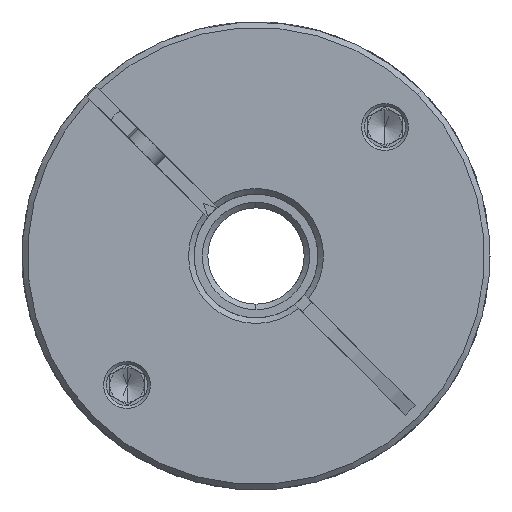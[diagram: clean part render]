
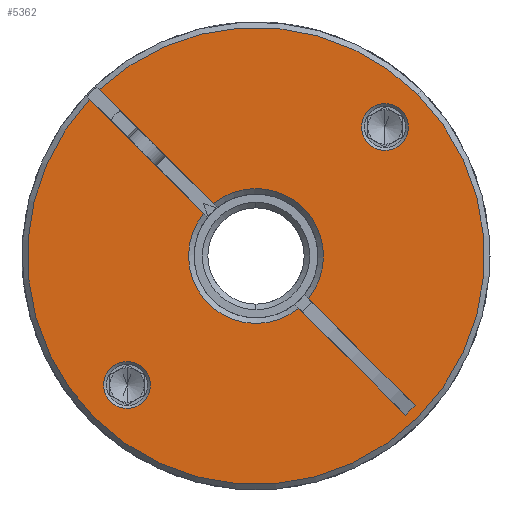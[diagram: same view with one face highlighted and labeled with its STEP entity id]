
A CAD part, front view. The second image highlights one B-rep face of the part: STEP entity #5362.
In plain terms, the highlighted planar face has unit normal (0, -1, 0).
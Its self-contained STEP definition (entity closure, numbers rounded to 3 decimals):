
#118 = DIRECTION ( 'NONE',  ( 0., -1., 0. ) ) ;
#143 = EDGE_CURVE ( 'NONE', #19163, #11366, #16369, .T. ) ;
#279 = ORIENTED_EDGE ( 'NONE', *, *, #14547, .T. ) ;
#366 = EDGE_CURVE ( 'NONE', #3629, #13953, #1198, .T. ) ;
#416 = CARTESIAN_POINT ( 'NONE',  ( 20.402, -67.045, 46.277 ) ) ;
#430 = CARTESIAN_POINT ( 'NONE',  ( -2.735, -67.045, 68. ) ) ;
#479 = CARTESIAN_POINT ( 'NONE',  ( -25.493, -67.045, 92.172 ) ) ;
#751 = VERTEX_POINT ( 'NONE', #8345 ) ;
#921 = ORIENTED_EDGE ( 'NONE', *, *, #10608, .T. ) ;
#1019 = DIRECTION ( 'NONE',  ( 0.707, 0., 0.707 ) ) ;
#1198 = LINE ( 'NONE', #16089, #14042 ) ;
#1271 = DIRECTION ( 'NONE',  ( 0., -1., 0. ) ) ;
#1374 = ORIENTED_EDGE ( 'NONE', *, *, #8871, .T. ) ;
#1404 = AXIS2_PLACEMENT_3D ( 'NONE', #13114, #16655, #18345 ) ;
#1449 = DIRECTION ( 'NONE',  ( 0., -1., 0. ) ) ;
#1590 = EDGE_CURVE ( 'NONE', #20549, #13953, #20001, .T. ) ;
#1605 = CARTESIAN_POINT ( 'NONE',  ( 13.599, -67.045, 84.334 ) ) ;
#1606 = LINE ( 'NONE', #17810, #14425 ) ;
#2107 = AXIS2_PLACEMENT_3D ( 'NONE', #19968, #3228, #10065 ) ;
#2229 = PLANE ( 'NONE',  #11323 ) ;
#2576 = ORIENTED_EDGE ( 'NONE', *, *, #17912, .T. ) ;
#2663 = VERTEX_POINT ( 'NONE', #6131 ) ;
#3228 = DIRECTION ( 'NONE',  ( 0., 1., 0. ) ) ;
#3465 = CARTESIAN_POINT ( 'NONE',  ( 4.195, -67.045, 74.93 ) ) ;
#3629 = VERTEX_POINT ( 'NONE', #416 ) ;
#3715 = DIRECTION ( 'NONE',  ( 0.707, 0., 0.707 ) ) ;
#3890 = AXIS2_PLACEMENT_3D ( 'NONE', #8093, #1271, #16457 ) ;
#4237 = ORIENTED_EDGE ( 'NONE', *, *, #366, .T. ) ;
#4457 = DIRECTION ( 'NONE',  ( 0., 1., 0. ) ) ;
#4626 = CARTESIAN_POINT ( 'NONE',  ( -2.735, -67.045, 68. ) ) ;
#5280 = LINE ( 'NONE', #12629, #12337 ) ;
#5362 = ADVANCED_FACE ( 'NONE', ( #10518, #6284, #10241 ), #2229, .T. ) ;
#5541 = EDGE_CURVE ( 'NONE', #6795, #19163, #12563, .T. ) ;
#5613 = CARTESIAN_POINT ( 'NONE',  ( -2.735, -67.045, 68. ) ) ;
#5697 = VERTEX_POINT ( 'NONE', #3465 ) ;
#6041 = DIRECTION ( 'NONE',  ( 0.707, 0., 0.707 ) ) ;
#6131 = CARTESIAN_POINT ( 'NONE',  ( -10.336, -67.045, 74.186 ) ) ;
#6228 = ORIENTED_EDGE ( 'NONE', *, *, #5541, .T. ) ;
#6284 = FACE_BOUND ( 'NONE', #12846, .T. ) ;
#6695 = ORIENTED_EDGE ( 'NONE', *, *, #7247, .T. ) ;
#6794 = CARTESIAN_POINT ( 'NONE',  ( 20.741, -67.045, 91.476 ) ) ;
#6795 = VERTEX_POINT ( 'NONE', #15719 ) ;
#6818 = EDGE_LOOP ( 'NONE', ( #9953, #19582, #6228, #19408, #2576, #1374, #15887, #19708, #4237, #12520, #6695 ) ) ;
#7030 = VERTEX_POINT ( 'NONE', #7132 ) ;
#7132 = CARTESIAN_POINT ( 'NONE',  ( -26.908, -67.045, 90.758 ) ) ;
#7247 = EDGE_CURVE ( 'NONE', #20549, #2663, #17941, .T. ) ;
#7381 = DIRECTION ( 'NONE',  ( 0.707, 0., -0.707 ) ) ;
#7684 = AXIS2_PLACEMENT_3D ( 'NONE', #16775, #20077, #10175 ) ;
#7906 = CARTESIAN_POINT ( 'NONE',  ( 16.003, -67.045, 86.738 ) ) ;
#8093 = CARTESIAN_POINT ( 'NONE',  ( -2.735, -67.045, 68. ) ) ;
#8345 = CARTESIAN_POINT ( 'NONE',  ( -8.921, -67.045, 75.601 ) ) ;
#8702 = VERTEX_POINT ( 'NONE', #9887 ) ;
#8871 = EDGE_CURVE ( 'NONE', #751, #5697, #12190, .T. ) ;
#8874 = DIRECTION ( 'NONE',  ( 0.707, 0., -0.707 ) ) ;
#9092 = VERTEX_POINT ( 'NONE', #11868 ) ;
#9129 = EDGE_LOOP ( 'NONE', ( #921, #14672 ) ) ;
#9379 = EDGE_CURVE ( 'NONE', #5697, #8702, #16323, .T. ) ;
#9461 = CIRCLE ( 'NONE', #7684, 3.4 ) ;
#9590 = CARTESIAN_POINT ( 'NONE',  ( -21.473, -67.045, 49.262 ) ) ;
#9617 = AXIS2_PLACEMENT_3D ( 'NONE', #7906, #4457, #17820 ) ;
#9887 = CARTESIAN_POINT ( 'NONE',  ( 4.865, -67.045, 61.814 ) ) ;
#9953 = ORIENTED_EDGE ( 'NONE', *, *, #14320, .F. ) ;
#10028 = CARTESIAN_POINT ( 'NONE',  ( -2.735, -67.045, 68. ) ) ;
#10065 = DIRECTION ( 'NONE',  ( 0.707, 0., 0.707 ) ) ;
#10175 = DIRECTION ( 'NONE',  ( 0.707, 0., 0.707 ) ) ;
#10241 = FACE_OUTER_BOUND ( 'NONE', #6818, .T. ) ;
#10472 = CARTESIAN_POINT ( 'NONE',  ( -23.878, -67.045, 46.858 ) ) ;
#10518 = FACE_BOUND ( 'NONE', #9129, .T. ) ;
#10548 = CARTESIAN_POINT ( 'NONE',  ( 18.988, -67.045, 44.862 ) ) ;
#10557 = CIRCLE ( 'NONE', #16445, 3.4 ) ;
#10601 = CARTESIAN_POINT ( 'NONE',  ( -3.442, -67.045, 67.293 ) ) ;
#10608 = EDGE_CURVE ( 'NONE', #9092, #13220, #12642, .T. ) ;
#10843 = CARTESIAN_POINT ( 'NONE',  ( -19.069, -67.045, 51.666 ) ) ;
#11323 = AXIS2_PLACEMENT_3D ( 'NONE', #5613, #17295, #6041 ) ;
#11354 = AXIS2_PLACEMENT_3D ( 'NONE', #20176, #1449, #14843 ) ;
#11366 = VERTEX_POINT ( 'NONE', #479 ) ;
#11868 = CARTESIAN_POINT ( 'NONE',  ( 18.407, -67.045, 89.142 ) ) ;
#11961 = VERTEX_POINT ( 'NONE', #10843 ) ;
#11990 = ORIENTED_EDGE ( 'NONE', *, *, #14351, .T. ) ;
#12190 = CIRCLE ( 'NONE', #17809, 9.8 ) ;
#12337 = VECTOR ( 'NONE', #7381, 1000. ) ;
#12520 = ORIENTED_EDGE ( 'NONE', *, *, #1590, .F. ) ;
#12563 = CIRCLE ( 'NONE', #3890, 33.2 ) ;
#12629 = CARTESIAN_POINT ( 'NONE',  ( -2.028, -67.045, 68.707 ) ) ;
#12642 = CIRCLE ( 'NONE', #9617, 3.4 ) ;
#12846 = EDGE_LOOP ( 'NONE', ( #11990, #279 ) ) ;
#13114 = CARTESIAN_POINT ( 'NONE',  ( 16.003, -67.045, 86.738 ) ) ;
#13220 = VERTEX_POINT ( 'NONE', #1605 ) ;
#13375 = DIRECTION ( 'NONE',  ( 0.707, 0., 0.707 ) ) ;
#13953 = VERTEX_POINT ( 'NONE', #10548 ) ;
#13976 = CARTESIAN_POINT ( 'NONE',  ( -2.028, -67.045, 68.707 ) ) ;
#14042 = VECTOR ( 'NONE', #16226, 1000. ) ;
#14320 = EDGE_CURVE ( 'NONE', #7030, #2663, #1606, .T. ) ;
#14351 = EDGE_CURVE ( 'NONE', #11961, #16509, #10557, .T. ) ;
#14425 = VECTOR ( 'NONE', #16190, 1000. ) ;
#14547 = EDGE_CURVE ( 'NONE', #16509, #11961, #9461, .T. ) ;
#14672 = ORIENTED_EDGE ( 'NONE', *, *, #18744, .T. ) ;
#14843 = DIRECTION ( 'NONE',  ( 0.707, 0., 0.707 ) ) ;
#15204 = DIRECTION ( 'NONE',  ( 0., 1., 0. ) ) ;
#15658 = CIRCLE ( 'NONE', #15837, 33.2 ) ;
#15719 = CARTESIAN_POINT ( 'NONE',  ( -26.211, -67.045, 44.524 ) ) ;
#15837 = AXIS2_PLACEMENT_3D ( 'NONE', #10028, #118, #13375 ) ;
#15887 = ORIENTED_EDGE ( 'NONE', *, *, #9379, .T. ) ;
#15914 = VECTOR ( 'NONE', #8874, 1000. ) ;
#16063 = VECTOR ( 'NONE', #18597, 1000. ) ;
#16089 = CARTESIAN_POINT ( 'NONE',  ( 18.988, -67.045, 44.862 ) ) ;
#16190 = DIRECTION ( 'NONE',  ( 0.707, 0., -0.707 ) ) ;
#16226 = DIRECTION ( 'NONE',  ( -0.707, 0., -0.707 ) ) ;
#16323 = CIRCLE ( 'NONE', #18108, 9.8 ) ;
#16369 = CIRCLE ( 'NONE', #11354, 33.2 ) ;
#16445 = AXIS2_PLACEMENT_3D ( 'NONE', #9590, #19353, #1019 ) ;
#16457 = DIRECTION ( 'NONE',  ( 0.707, 0., 0.707 ) ) ;
#16509 = VERTEX_POINT ( 'NONE', #10472 ) ;
#16655 = DIRECTION ( 'NONE',  ( 0., 1., 0. ) ) ;
#16775 = CARTESIAN_POINT ( 'NONE',  ( -21.473, -67.045, 49.262 ) ) ;
#17295 = DIRECTION ( 'NONE',  ( 0., -1., 0. ) ) ;
#17809 = AXIS2_PLACEMENT_3D ( 'NONE', #4626, #17990, #18134 ) ;
#17810 = CARTESIAN_POINT ( 'NONE',  ( -3.442, -67.045, 67.293 ) ) ;
#17820 = DIRECTION ( 'NONE',  ( 0.707, 0., 0.707 ) ) ;
#17912 = EDGE_CURVE ( 'NONE', #11366, #751, #5280, .T. ) ;
#17941 = CIRCLE ( 'NONE', #2107, 9.8 ) ;
#17990 = DIRECTION ( 'NONE',  ( 0., 1., 0. ) ) ;
#18108 = AXIS2_PLACEMENT_3D ( 'NONE', #430, #15204, #3715 ) ;
#18134 = DIRECTION ( 'NONE',  ( 0.707, 0., 0.707 ) ) ;
#18345 = DIRECTION ( 'NONE',  ( 0.707, 0., 0.707 ) ) ;
#18597 = DIRECTION ( 'NONE',  ( 0.707, 0., -0.707 ) ) ;
#18744 = EDGE_CURVE ( 'NONE', #13220, #9092, #18801, .T. ) ;
#18801 = CIRCLE ( 'NONE', #1404, 3.4 ) ;
#18950 = EDGE_CURVE ( 'NONE', #8702, #3629, #20382, .T. ) ;
#19157 = EDGE_CURVE ( 'NONE', #7030, #6795, #15658, .T. ) ;
#19163 = VERTEX_POINT ( 'NONE', #6794 ) ;
#19353 = DIRECTION ( 'NONE',  ( 0., 1., 0. ) ) ;
#19408 = ORIENTED_EDGE ( 'NONE', *, *, #143, .T. ) ;
#19582 = ORIENTED_EDGE ( 'NONE', *, *, #19157, .T. ) ;
#19708 = ORIENTED_EDGE ( 'NONE', *, *, #18950, .T. ) ;
#19873 = CARTESIAN_POINT ( 'NONE',  ( 3.451, -67.045, 60.399 ) ) ;
#19968 = CARTESIAN_POINT ( 'NONE',  ( -2.735, -67.045, 68. ) ) ;
#20001 = LINE ( 'NONE', #10601, #16063 ) ;
#20077 = DIRECTION ( 'NONE',  ( 0., 1., 0. ) ) ;
#20176 = CARTESIAN_POINT ( 'NONE',  ( -2.735, -67.045, 68. ) ) ;
#20382 = LINE ( 'NONE', #13976, #15914 ) ;
#20549 = VERTEX_POINT ( 'NONE', #19873 ) ;
